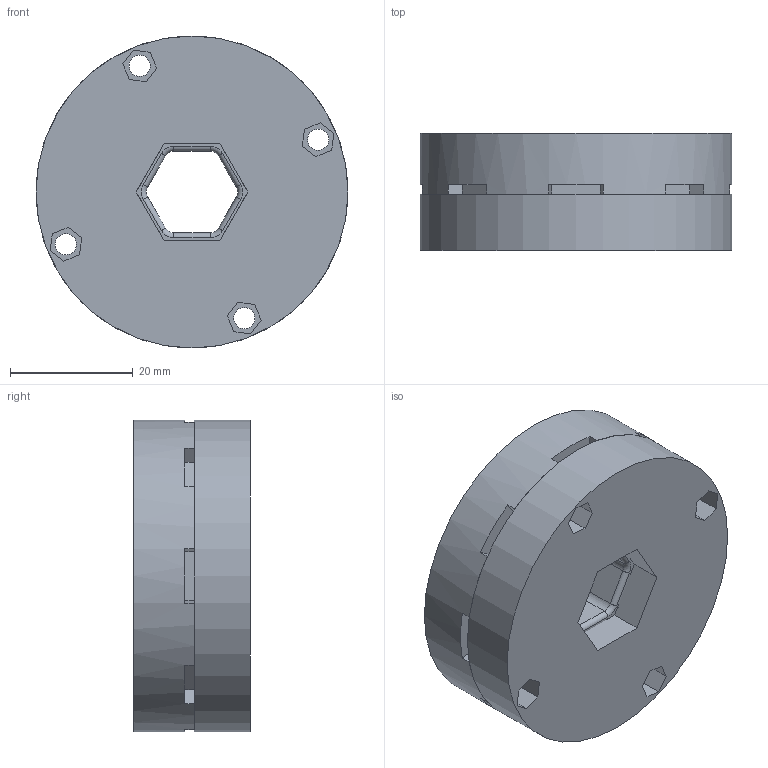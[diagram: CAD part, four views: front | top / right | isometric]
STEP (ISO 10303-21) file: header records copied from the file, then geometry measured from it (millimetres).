
FILE_DESCRIPTION (( 'STEP AP214' ), '1' );
FILE_NAME ('Antix Front Mold ASM.STEP', '2025-05-03T15:05:22', ( '' ), ( '' ), 'SwSTEP 2.0', 'SolidWorks 2022', '' );
FILE_SCHEMA (( 'AUTOMOTIVE_DESIGN' ));
Length unit declared in the file: inch
Products named in the file (6): Antix Front Cast 1250 Wheel Negative; Antix TPU Front Mold Bottom; Antix Front Mold ASM; Antix TPU Front Mold Top; Antix Front Cast Wheel; Antix Front TPU Wheel for Casting
Assembly tree (5 placements, depth 3):
  Antix Front Mold ASM
    Antix TPU Front Mold Bottom
    Antix Front Cast Wheel
      Antix Front TPU Wheel for Casting
      Antix Front Cast 1250 Wheel Negative
    Antix TPU Front Mold Top
Bounding box: 50.8 x 19.05 x 50.8 mm (x, y, z)
Volume: 31994.2 mm3; surface area: 19831.5 mm2
Topology: 4 solids, 4 shells, 1409 faces, 3994 edges, 2496 vertices
Faces by surface type: cylinder 442, plane 335, torus 296, bspline 216, cone 120
Full cylindrical faces by diameter (mm): 3.454 x8, 22.225 x2, 26.987 x1, 26.988 x1, 28.575 x2, 31.75 x2, 37.998 x1, 38.1 x1, 50.8 x2
Entity records: 55650 total; most frequent: CARTESIAN_POINT 21266, ORIENTED_EDGE 7886, DIRECTION 6476, EDGE_CURVE 3943, AXIS2_PLACEMENT_3D 2599, VERTEX_POINT 2477, EDGE_LOOP 1484, FACE_OUTER_BOUND 1437
